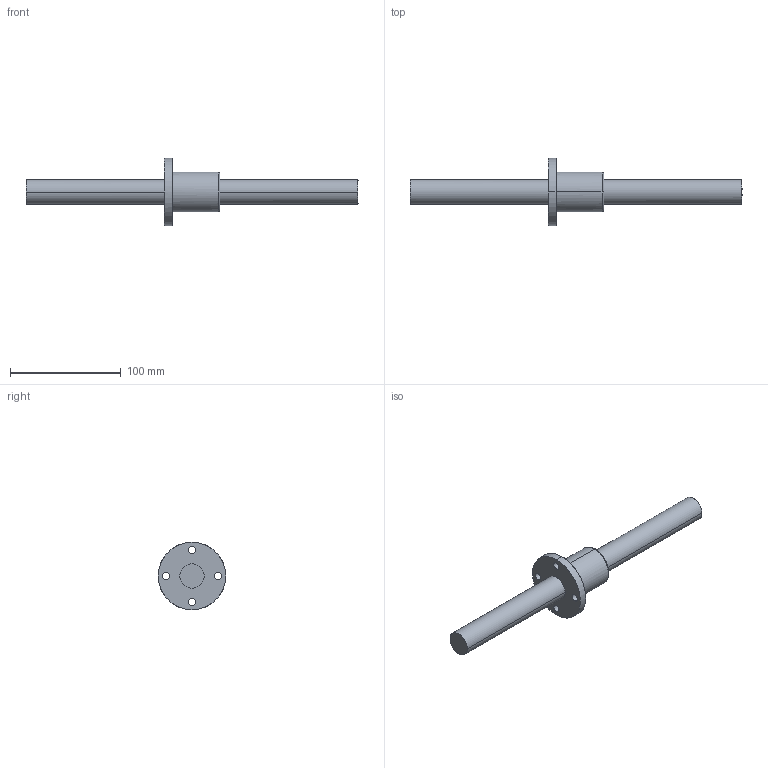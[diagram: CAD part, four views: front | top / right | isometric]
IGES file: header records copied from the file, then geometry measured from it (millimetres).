
Global section: file name: No Iges File Name specified; native system: AutoDesk Inventor R10; preprocessor: AutoDesk Inventor Iges Exporter R10; author: No Author specified; organization: No Organization specified; date: 20101224.144635; units: millimetre
Bounding box: 300 x 61 x 61 mm (x, y, z)
Surface area: 36448.7 mm2 (no closed solid volume)
Topology: 0 solids, 0 shells, 25 faces, 184 edges, 184 vertices
Faces by surface type: bspline 25
